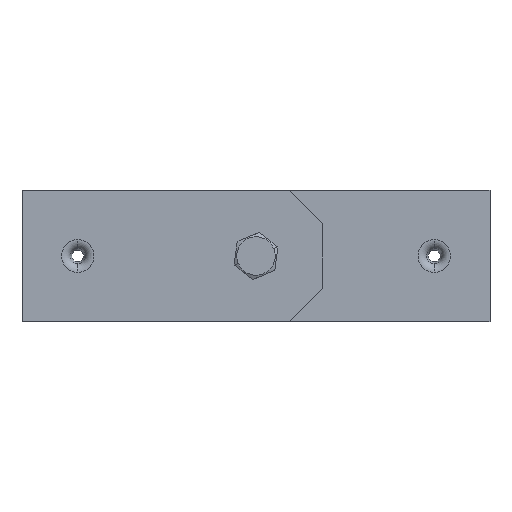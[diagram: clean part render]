
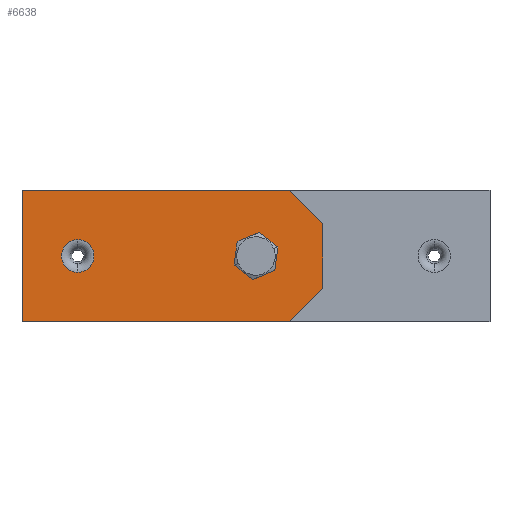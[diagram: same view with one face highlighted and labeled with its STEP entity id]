
A CAD part, top view. The second image highlights one B-rep face of the part: STEP entity #6638.
In plain terms, the highlighted planar face has unit normal (0, 0, 1).
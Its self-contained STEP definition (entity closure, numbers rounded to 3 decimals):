
#81 = DIRECTION ( 'NONE',  ( 0., 0., 1. ) ) ;
#83 = DIRECTION ( 'NONE',  ( 0., 0., 1. ) ) ;
#102 = CARTESIAN_POINT ( 'NONE',  ( 37.5, 0., 3. ) ) ;
#312 = DIRECTION ( 'NONE',  ( 0., 0., 1. ) ) ;
#328 = DIRECTION ( 'NONE',  ( -1., 0., 0. ) ) ;
#377 = VERTEX_POINT ( 'NONE', #4359 ) ;
#423 = EDGE_LOOP ( 'NONE', ( #1990, #3562 ) ) ;
#468 = DIRECTION ( 'NONE',  ( -0.707, 0.707, 0. ) ) ;
#570 = ORIENTED_EDGE ( 'NONE', *, *, #2636, .T. ) ;
#657 = EDGE_CURVE ( 'NONE', #4599, #5918, #2654, .T. ) ;
#715 = EDGE_CURVE ( 'NONE', #1109, #7795, #6653, .T. ) ;
#798 = CIRCLE ( 'NONE', #6808, 7.301 ) ;
#828 = CARTESIAN_POINT ( 'NONE',  ( -42.5, 0., 3. ) ) ;
#834 = FACE_BOUND ( 'NONE', #7861, .T. ) ;
#947 = ORIENTED_EDGE ( 'NONE', *, *, #657, .T. ) ;
#1044 = EDGE_CURVE ( 'NONE', #1533, #4599, #3061, .T. ) ;
#1105 = AXIS2_PLACEMENT_3D ( 'NONE', #828, #83, #6879 ) ;
#1109 = VERTEX_POINT ( 'NONE', #5927 ) ;
#1394 = DIRECTION ( 'NONE',  ( 0., -1., 0. ) ) ;
#1533 = VERTEX_POINT ( 'NONE', #7485 ) ;
#1635 = CARTESIAN_POINT ( 'NONE',  ( 37.5, 0., 3. ) ) ;
#1745 = AXIS2_PLACEMENT_3D ( 'NONE', #1635, #81, #7623 ) ;
#1810 = VERTEX_POINT ( 'NONE', #8743 ) ;
#1990 = ORIENTED_EDGE ( 'NONE', *, *, #2491, .F. ) ;
#2187 = ORIENTED_EDGE ( 'NONE', *, *, #1044, .T. ) ;
#2199 = CARTESIAN_POINT ( 'NONE',  ( -67.5, -29.5, 3. ) ) ;
#2278 = EDGE_LOOP ( 'NONE', ( #7930, #2187, #947, #570, #6547, #6692 ) ) ;
#2378 = FACE_BOUND ( 'NONE', #423, .T. ) ;
#2491 = EDGE_CURVE ( 'NONE', #6623, #377, #5358, .T. ) ;
#2535 = VECTOR ( 'NONE', #468, 1000. ) ;
#2583 = ORIENTED_EDGE ( 'NONE', *, *, #3281, .F. ) ;
#2636 = EDGE_CURVE ( 'NONE', #5918, #3202, #4229, .T. ) ;
#2654 = LINE ( 'NONE', #4172, #9022 ) ;
#3061 = LINE ( 'NONE', #4477, #6462 ) ;
#3072 = DIRECTION ( 'NONE',  ( 0., 0., -1. ) ) ;
#3120 = DIRECTION ( 'NONE',  ( -1., 0., 0. ) ) ;
#3202 = VERTEX_POINT ( 'NONE', #3469 ) ;
#3281 = EDGE_CURVE ( 'NONE', #7690, #1810, #9031, .T. ) ;
#3469 = CARTESIAN_POINT ( 'NONE',  ( 52.5, 29.5, 3. ) ) ;
#3470 = ORIENTED_EDGE ( 'NONE', *, *, #7345, .F. ) ;
#3562 = ORIENTED_EDGE ( 'NONE', *, *, #5141, .F. ) ;
#3691 = DIRECTION ( 'NONE',  ( 0.707, 0.707, 0. ) ) ;
#3749 = VECTOR ( 'NONE', #1394, 1000. ) ;
#3807 = AXIS2_PLACEMENT_3D ( 'NONE', #102, #8401, #6162 ) ;
#3866 = CARTESIAN_POINT ( 'NONE',  ( -67.5, -29.5, 3. ) ) ;
#3898 = CARTESIAN_POINT ( 'NONE',  ( -67.5, 29.5, 3. ) ) ;
#3929 = EDGE_CURVE ( 'NONE', #7795, #1533, #8999, .T. ) ;
#3952 = PLANE ( 'NONE',  #6766 ) ;
#4107 = VECTOR ( 'NONE', #5207, 1000. ) ;
#4172 = CARTESIAN_POINT ( 'NONE',  ( 67.5, -29.5, 3. ) ) ;
#4212 = DIRECTION ( 'NONE',  ( 0., 1., 0. ) ) ;
#4229 = LINE ( 'NONE', #7266, #2535 ) ;
#4237 = CARTESIAN_POINT ( 'NONE',  ( 67.5, -14.5, 3. ) ) ;
#4359 = CARTESIAN_POINT ( 'NONE',  ( 32., 0., 3. ) ) ;
#4477 = CARTESIAN_POINT ( 'NONE',  ( 67.5, -14.5, 3. ) ) ;
#4599 = VERTEX_POINT ( 'NONE', #4237 ) ;
#4737 = LINE ( 'NONE', #5635, #6524 ) ;
#5141 = EDGE_CURVE ( 'NONE', #377, #6623, #6987, .T. ) ;
#5207 = DIRECTION ( 'NONE',  ( 1., 0., 0. ) ) ;
#5358 = CIRCLE ( 'NONE', #1745, 5.5 ) ;
#5559 = CARTESIAN_POINT ( 'NONE',  ( -42.5, -7.301, 3. ) ) ;
#5635 = CARTESIAN_POINT ( 'NONE',  ( -67.5, 29.5, 3. ) ) ;
#5918 = VERTEX_POINT ( 'NONE', #7560 ) ;
#5927 = CARTESIAN_POINT ( 'NONE',  ( -67.5, 29.5, 3. ) ) ;
#5987 = FACE_OUTER_BOUND ( 'NONE', #2278, .T. ) ;
#6162 = DIRECTION ( 'NONE',  ( 1., 0., 0. ) ) ;
#6462 = VECTOR ( 'NONE', #3691, 1000. ) ;
#6524 = VECTOR ( 'NONE', #328, 1000. ) ;
#6547 = ORIENTED_EDGE ( 'NONE', *, *, #9062, .T. ) ;
#6623 = VERTEX_POINT ( 'NONE', #9136 ) ;
#6638 = ADVANCED_FACE ( 'NONE', ( #834, #2378, #5987 ), #3952, .F. ) ;
#6653 = LINE ( 'NONE', #8190, #3749 ) ;
#6692 = ORIENTED_EDGE ( 'NONE', *, *, #715, .T. ) ;
#6766 = AXIS2_PLACEMENT_3D ( 'NONE', #3898, #3072, #3120 ) ;
#6808 = AXIS2_PLACEMENT_3D ( 'NONE', #9214, #312, #8618 ) ;
#6879 = DIRECTION ( 'NONE',  ( 0., -1., 0. ) ) ;
#6987 = CIRCLE ( 'NONE', #3807, 5.5 ) ;
#7266 = CARTESIAN_POINT ( 'NONE',  ( 52.5, 29.5, 3. ) ) ;
#7345 = EDGE_CURVE ( 'NONE', #1810, #7690, #798, .T. ) ;
#7485 = CARTESIAN_POINT ( 'NONE',  ( 52.5, -29.5, 3. ) ) ;
#7560 = CARTESIAN_POINT ( 'NONE',  ( 67.5, 14.5, 3. ) ) ;
#7623 = DIRECTION ( 'NONE',  ( 1., 0., 0. ) ) ;
#7690 = VERTEX_POINT ( 'NONE', #5559 ) ;
#7795 = VERTEX_POINT ( 'NONE', #3866 ) ;
#7861 = EDGE_LOOP ( 'NONE', ( #2583, #3470 ) ) ;
#7930 = ORIENTED_EDGE ( 'NONE', *, *, #3929, .T. ) ;
#8190 = CARTESIAN_POINT ( 'NONE',  ( -67.5, -29.5, 3. ) ) ;
#8401 = DIRECTION ( 'NONE',  ( 0., 0., 1. ) ) ;
#8618 = DIRECTION ( 'NONE',  ( 0., -1., 0. ) ) ;
#8743 = CARTESIAN_POINT ( 'NONE',  ( -42.5, 7.301, 3. ) ) ;
#8999 = LINE ( 'NONE', #2199, #4107 ) ;
#9022 = VECTOR ( 'NONE', #4212, 1000. ) ;
#9031 = CIRCLE ( 'NONE', #1105, 7.301 ) ;
#9062 = EDGE_CURVE ( 'NONE', #3202, #1109, #4737, .T. ) ;
#9136 = CARTESIAN_POINT ( 'NONE',  ( 43., 0., 3. ) ) ;
#9214 = CARTESIAN_POINT ( 'NONE',  ( -42.5, 0., 3. ) ) ;
